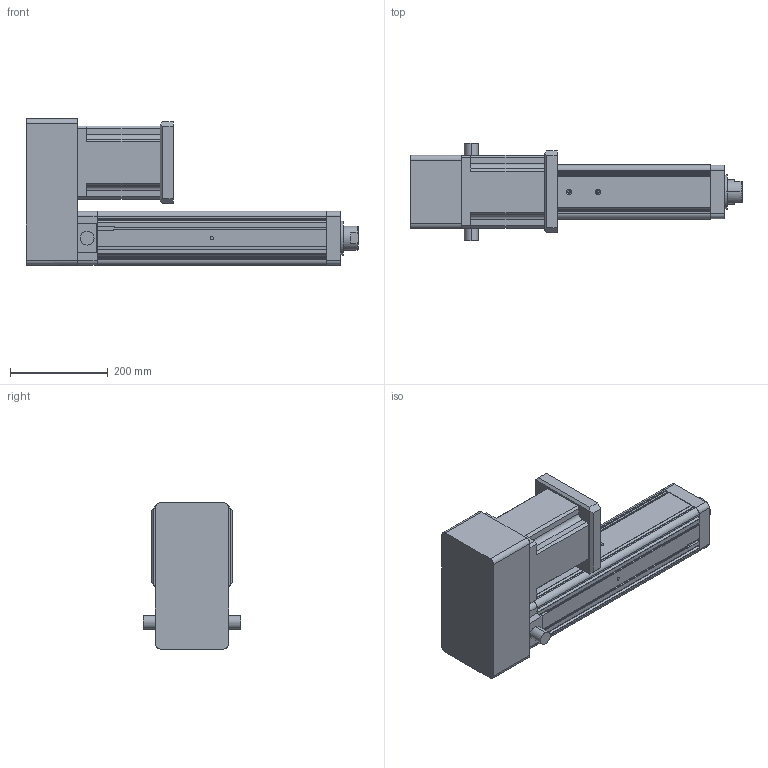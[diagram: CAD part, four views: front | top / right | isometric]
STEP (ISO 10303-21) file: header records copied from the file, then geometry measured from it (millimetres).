
FILE_DESCRIPTION (( 'STEP AP203' ), '1' );
FILE_NAME ('YRJ110-L300-H4K2.STEP', '2020-01-06T01:19:49', ( 'User' ), ( 'China' ), 'SwSTEP 2.0', 'SolidWorks 2016', '' );
FILE_SCHEMA (( 'CONFIG_CONTROL_DESIGN' ));
Length unit declared in the file: millimetre
Products named in the file (7): H5-110-1; H5-110-2; 萇儂碟-110; K2-110; YRJ110-L300-H4K2; 095-100俴最倰第; 142熬厒儂
Assembly tree (6 placements, depth 2):
  YRJ110-L300-H4K2
    095-100俴最倰第
    142熬厒儂
    H5-110-1
    H5-110-2
    萇儂碟-110
    K2-110
Bounding box: 681 x 200 x 300.5 mm (x, y, z)
Volume: 11744192.8 mm3; surface area: 900046.9 mm2
Topology: 6 solids, 6 shells, 311 faces, 850 edges, 549 vertices
Faces by surface type: plane 174, cylinder 110, cone 27
Entity records: 10800 total; most frequent: CARTESIAN_POINT 2043, DIRECTION 1687, ORIENTED_EDGE 1668, EDGE_CURVE 834, LINE 577, VECTOR 577, AXIS2_PLACEMENT_3D 555, VERTEX_POINT 549
